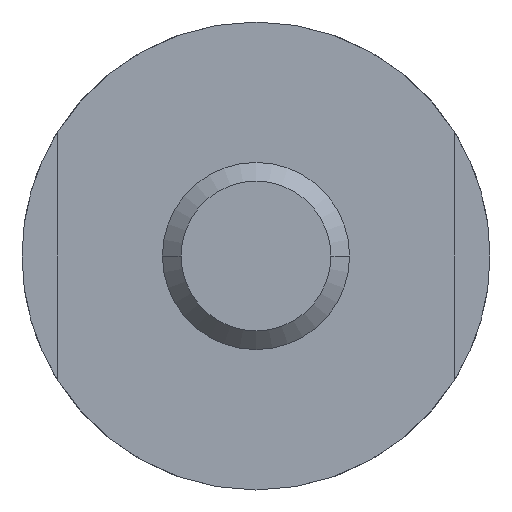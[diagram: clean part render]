
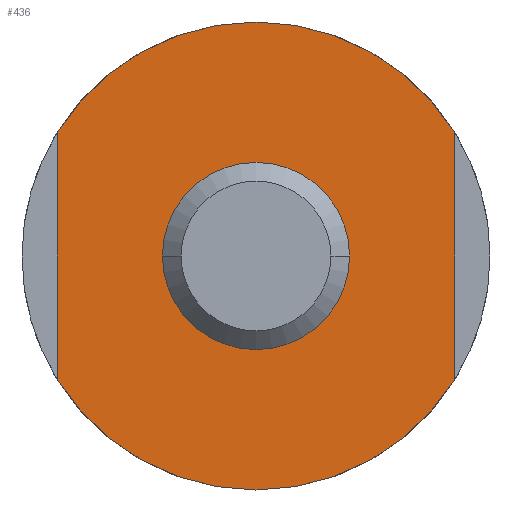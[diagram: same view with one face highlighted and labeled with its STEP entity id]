
A CAD part, front view. The second image highlights one B-rep face of the part: STEP entity #436.
In plain terms, the highlighted planar face has unit normal (0, -1, 0) as drawn and (0, 1, 0) by its records, which use the part's own axes.
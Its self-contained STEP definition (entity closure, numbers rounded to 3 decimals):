
#1 = EDGE_CURVE ( 'NONE', #941, #328, #384, .T. ) ;
#19 = VERTEX_POINT ( 'NONE', #909 ) ;
#32 = EDGE_LOOP ( 'NONE', ( #850, #709, #406, #392 ) ) ;
#55 = DIRECTION ( 'NONE',  ( 0., 1., 0. ) ) ;
#80 = AXIS2_PLACEMENT_3D ( 'NONE', #844, #166, #632 ) ;
#87 = EDGE_CURVE ( 'NONE', #511, #345, #483, .T. ) ;
#130 = CIRCLE ( 'NONE', #390, 10. ) ;
#151 = EDGE_CURVE ( 'NONE', #511, #333, #393, .T. ) ;
#166 = DIRECTION ( 'NONE',  ( 0., 1., 0. ) ) ;
#204 = DIRECTION ( 'NONE',  ( 0., 0., 1. ) ) ;
#212 = AXIS2_PLACEMENT_3D ( 'NONE', #385, #55, #450 ) ;
#235 = EDGE_LOOP ( 'NONE', ( #243, #959 ) ) ;
#243 = ORIENTED_EDGE ( 'NONE', *, *, #1, .F. ) ;
#276 = DIRECTION ( 'NONE',  ( 0., 1., 0. ) ) ;
#288 = CARTESIAN_POINT ( 'NONE',  ( -3.6, 11.964, 0. ) ) ;
#296 = CARTESIAN_POINT ( 'NONE',  ( -8.5, 11.964, -5.268 ) ) ;
#313 = DIRECTION ( 'NONE',  ( 0., 1., 0. ) ) ;
#328 = VERTEX_POINT ( 'NONE', #666 ) ;
#333 = VERTEX_POINT ( 'NONE', #750 ) ;
#345 = VERTEX_POINT ( 'NONE', #670 ) ;
#384 = CIRCLE ( 'NONE', #640, 3.6 ) ;
#385 = CARTESIAN_POINT ( 'NONE',  ( -3.6, 11.964, 0. ) ) ;
#390 = AXIS2_PLACEMENT_3D ( 'NONE', #449, #276, #756 ) ;
#392 = ORIENTED_EDGE ( 'NONE', *, *, #398, .T. ) ;
#393 = CIRCLE ( 'NONE', #80, 10. ) ;
#398 = EDGE_CURVE ( 'NONE', #19, #345, #130, .T. ) ;
#406 = ORIENTED_EDGE ( 'NONE', *, *, #421, .F. ) ;
#421 = EDGE_CURVE ( 'NONE', #19, #333, #897, .T. ) ;
#436 = ADVANCED_FACE ( 'NONE', ( #688, #611 ), #452, .T. ) ;
#442 = CARTESIAN_POINT ( 'NONE',  ( 8.5, 11.964, -5.268 ) ) ;
#445 = CARTESIAN_POINT ( 'NONE',  ( 0., 11.964, 0. ) ) ;
#449 = CARTESIAN_POINT ( 'NONE',  ( 0., 11.964, 0. ) ) ;
#450 = DIRECTION ( 'NONE',  ( -1., 0., 0. ) ) ;
#452 = PLANE ( 'NONE',  #212 ) ;
#483 = LINE ( 'NONE', #296, #706 ) ;
#511 = VERTEX_POINT ( 'NONE', #917 ) ;
#555 = DIRECTION ( 'NONE',  ( 0., 0., -1. ) ) ;
#611 = FACE_BOUND ( 'NONE', #235, .T. ) ;
#631 = EDGE_CURVE ( 'NONE', #328, #941, #684, .T. ) ;
#632 = DIRECTION ( 'NONE',  ( -1., 0., 0. ) ) ;
#640 = AXIS2_PLACEMENT_3D ( 'NONE', #445, #972, #754 ) ;
#666 = CARTESIAN_POINT ( 'NONE',  ( 3.6, 11.964, 0. ) ) ;
#670 = CARTESIAN_POINT ( 'NONE',  ( -8.5, 11.964, -5.268 ) ) ;
#684 = CIRCLE ( 'NONE', #895, 3.6 ) ;
#688 = FACE_OUTER_BOUND ( 'NONE', #32, .T. ) ;
#697 = VECTOR ( 'NONE', #204, 1000. ) ;
#706 = VECTOR ( 'NONE', #555, 1000. ) ;
#709 = ORIENTED_EDGE ( 'NONE', *, *, #151, .T. ) ;
#750 = CARTESIAN_POINT ( 'NONE',  ( 8.5, 11.964, 5.268 ) ) ;
#754 = DIRECTION ( 'NONE',  ( -1., 0., 0. ) ) ;
#756 = DIRECTION ( 'NONE',  ( -1., 0., 0. ) ) ;
#844 = CARTESIAN_POINT ( 'NONE',  ( 0., 11.964, 0. ) ) ;
#850 = ORIENTED_EDGE ( 'NONE', *, *, #87, .F. ) ;
#852 = DIRECTION ( 'NONE',  ( -1., 0., 0. ) ) ;
#858 = CARTESIAN_POINT ( 'NONE',  ( 0., 11.964, 0. ) ) ;
#895 = AXIS2_PLACEMENT_3D ( 'NONE', #858, #313, #852 ) ;
#897 = LINE ( 'NONE', #442, #697 ) ;
#909 = CARTESIAN_POINT ( 'NONE',  ( 8.5, 11.964, -5.268 ) ) ;
#917 = CARTESIAN_POINT ( 'NONE',  ( -8.5, 11.964, 5.268 ) ) ;
#941 = VERTEX_POINT ( 'NONE', #288 ) ;
#959 = ORIENTED_EDGE ( 'NONE', *, *, #631, .F. ) ;
#972 = DIRECTION ( 'NONE',  ( 0., 1., 0. ) ) ;
